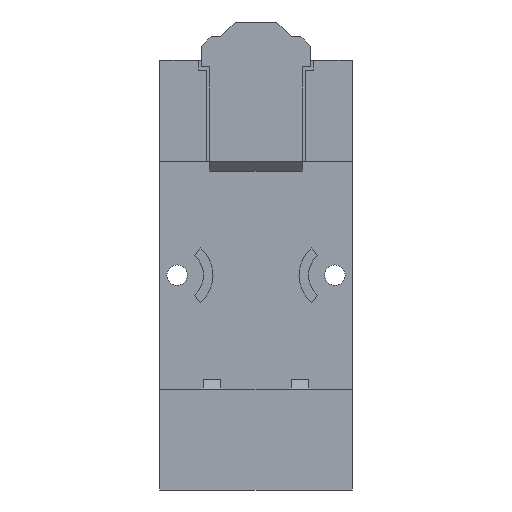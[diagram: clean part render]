
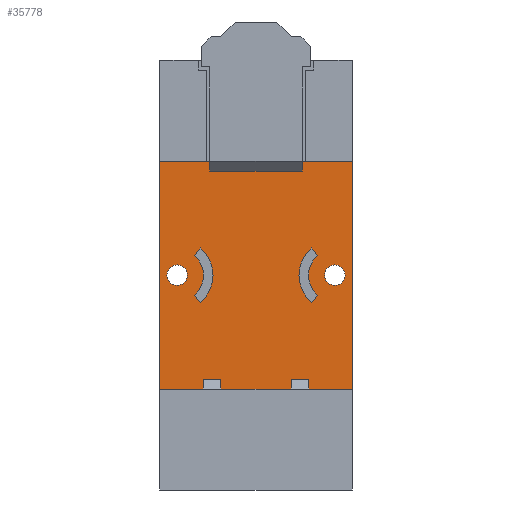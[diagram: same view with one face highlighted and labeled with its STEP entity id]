
A CAD part, front view. The second image highlights one B-rep face of the part: STEP entity #35778.
In plain terms, the highlighted planar face has unit normal (0, -1, 0).
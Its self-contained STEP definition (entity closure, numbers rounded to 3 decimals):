
#717 = CARTESIAN_POINT ( 'NONE',  ( -12.3, 4., 0. ) ) ;
#724 = DIRECTION ( 'NONE',  ( 0., 1., 0. ) ) ;
#725 = DIRECTION ( 'NONE',  ( 0., 0., -1. ) ) ;
#1115 = CARTESIAN_POINT ( 'NONE',  ( 15., 4., -17.75 ) ) ;
#1116 = CARTESIAN_POINT ( 'NONE',  ( 8.653, 4., -4.25 ) ) ;
#1117 = CARTESIAN_POINT ( 'NONE',  ( 9.63, 4., -3.112 ) ) ;
#1118 = CARTESIAN_POINT ( 'NONE',  ( 8.653, 4., 4.25 ) ) ;
#1119 = CARTESIAN_POINT ( 'NONE',  ( 9.63, 4., 3.112 ) ) ;
#1120 = CARTESIAN_POINT ( 'NONE',  ( -9.63, 4., -3.112 ) ) ;
#1121 = CARTESIAN_POINT ( 'NONE',  ( -8.653, 4., -4.25 ) ) ;
#1122 = CARTESIAN_POINT ( 'NONE',  ( -8.653, 4., 4.25 ) ) ;
#1123 = CARTESIAN_POINT ( 'NONE',  ( -9.63, 4., 3.112 ) ) ;
#1131 = CARTESIAN_POINT ( 'NONE',  ( 15., 4., 17.75 ) ) ;
#1210 = CARTESIAN_POINT ( 'NONE',  ( -15., 4., 17.75 ) ) ;
#1211 = CARTESIAN_POINT ( 'NONE',  ( -15., 4., -17.75 ) ) ;
#2302 = CARTESIAN_POINT ( 'NONE',  ( 12.3, 4., 0. ) ) ;
#2309 = DIRECTION ( 'NONE',  ( 0., -1., 0. ) ) ;
#2310 = DIRECTION ( 'NONE',  ( 0., 0., -1. ) ) ;
#4326 = AXIS2_PLACEMENT_3D ( 'NONE', #38862, #38863, #38864 ) ;
#4332 = VECTOR ( 'NONE', #38823, 1000. ) ;
#4625 = VECTOR ( 'NONE', #39432, 1000. ) ;
#4664 = AXIS2_PLACEMENT_3D ( 'NONE', #39543, #39547, #39548 ) ;
#14237 = VERTEX_POINT ( 'NONE', #46190 ) ;
#14618 = VERTEX_POINT ( 'NONE', #46341 ) ;
#15400 = VERTEX_POINT ( 'NONE', #48749 ) ;
#15567 = VERTEX_POINT ( 'NONE', #48838 ) ;
#16944 = EDGE_CURVE ( 'NONE', #14237, #14618, #20386, .T. ) ;
#17677 = VERTEX_POINT ( 'NONE', #1115 ) ;
#17678 = VERTEX_POINT ( 'NONE', #1116 ) ;
#17679 = VERTEX_POINT ( 'NONE', #1117 ) ;
#17680 = VERTEX_POINT ( 'NONE', #1118 ) ;
#17681 = VERTEX_POINT ( 'NONE', #1119 ) ;
#17682 = VERTEX_POINT ( 'NONE', #1120 ) ;
#17683 = VERTEX_POINT ( 'NONE', #1121 ) ;
#17684 = VERTEX_POINT ( 'NONE', #1122 ) ;
#17685 = VERTEX_POINT ( 'NONE', #1123 ) ;
#17693 = VERTEX_POINT ( 'NONE', #1131 ) ;
#17772 = VERTEX_POINT ( 'NONE', #1210 ) ;
#17773 = VERTEX_POINT ( 'NONE', #1211 ) ;
#18247 = EDGE_CURVE ( 'NONE', #15400, #15567, #20429, .T. ) ;
#20386 = CIRCLE ( 'NONE', #43198, 1.6 ) ;
#20429 = CIRCLE ( 'NONE', #43371, 1.6 ) ;
#20488 = CIRCLE ( 'NONE', #4326, 1.6 ) ;
#20499 = CIRCLE ( 'NONE', #4664, 1.6 ) ;
#20525 = CIRCLE ( 'NONE', #43385, 5.6 ) ;
#20526 = CIRCLE ( 'NONE', #43168, 4.1 ) ;
#20527 = CIRCLE ( 'NONE', #43396, 4.1 ) ;
#20528 = CIRCLE ( 'NONE', #43393, 5.6 ) ;
#20926 = EDGE_LOOP ( 'NONE', ( #33474, #33475 ) ) ;
#20933 = EDGE_LOOP ( 'NONE', ( #33473, #33472, #33471, #33470 ) ) ;
#20937 = EDGE_LOOP ( 'NONE', ( #33479, #33477, #33478, #33476 ) ) ;
#20939 = EDGE_LOOP ( 'NONE', ( #33483, #33481, #33482, #33480 ) ) ;
#20947 = EDGE_LOOP ( 'NONE', ( #33468, #33469 ) ) ;
#21830 = EDGE_CURVE ( 'NONE', #17773, #17772, #38821, .T. ) ;
#21844 = EDGE_CURVE ( 'NONE', #14618, #14237, #20488, .T. ) ;
#33468 = ORIENTED_EDGE ( 'NONE', *, *, #16944, .T. ) ;
#33469 = ORIENTED_EDGE ( 'NONE', *, *, #21844, .T. ) ;
#33470 = ORIENTED_EDGE ( 'NONE', *, *, #36217, .T. ) ;
#33471 = ORIENTED_EDGE ( 'NONE', *, *, #36220, .T. ) ;
#33472 = ORIENTED_EDGE ( 'NONE', *, *, #21830, .F. ) ;
#33473 = ORIENTED_EDGE ( 'NONE', *, *, #35479, .F. ) ;
#33474 = ORIENTED_EDGE ( 'NONE', *, *, #35518, .F. ) ;
#33475 = ORIENTED_EDGE ( 'NONE', *, *, #18247, .F. ) ;
#33476 = ORIENTED_EDGE ( 'NONE', *, *, #36219, .F. ) ;
#33477 = ORIENTED_EDGE ( 'NONE', *, *, #36225, .F. ) ;
#33478 = ORIENTED_EDGE ( 'NONE', *, *, #36221, .F. ) ;
#33479 = ORIENTED_EDGE ( 'NONE', *, *, #36222, .F. ) ;
#33480 = ORIENTED_EDGE ( 'NONE', *, *, #36223, .T. ) ;
#33481 = ORIENTED_EDGE ( 'NONE', *, *, #36228, .T. ) ;
#33482 = ORIENTED_EDGE ( 'NONE', *, *, #36226, .T. ) ;
#33483 = ORIENTED_EDGE ( 'NONE', *, *, #36227, .T. ) ;
#35479 = EDGE_CURVE ( 'NONE', #17772, #17693, #39430, .T. ) ;
#35518 = EDGE_CURVE ( 'NONE', #15567, #15400, #20499, .T. ) ;
#35778 = ADVANCED_FACE ( 'NONE', ( #42358, #42363, #42367, #42370, #42373 ), #40975, .F. ) ;
#36217 = EDGE_CURVE ( 'NONE', #17677, #17693, #45616, .T. ) ;
#36219 = EDGE_CURVE ( 'NONE', #17680, #17678, #20525, .T. ) ;
#36220 = EDGE_CURVE ( 'NONE', #17773, #17677, #45625, .T. ) ;
#36221 = EDGE_CURVE ( 'NONE', #17678, #17679, #45628, .T. ) ;
#36222 = EDGE_CURVE ( 'NONE', #17681, #17680, #45631, .T. ) ;
#36223 = EDGE_CURVE ( 'NONE', #17682, #17685, #20526, .T. ) ;
#36225 = EDGE_CURVE ( 'NONE', #17679, #17681, #20527, .T. ) ;
#36226 = EDGE_CURVE ( 'NONE', #17683, #17682, #45643, .T. ) ;
#36227 = EDGE_CURVE ( 'NONE', #17685, #17684, #45646, .T. ) ;
#36228 = EDGE_CURVE ( 'NONE', #17684, #17683, #20528, .T. ) ;
#38821 = LINE ( 'NONE', #38822, #4332 ) ;
#38822 = CARTESIAN_POINT ( 'NONE',  ( -15., 4., -17.75 ) ) ;
#38823 = DIRECTION ( 'NONE',  ( 0., 0., 1. ) ) ;
#38862 = CARTESIAN_POINT ( 'NONE',  ( -12.3, 4., 0. ) ) ;
#38863 = DIRECTION ( 'NONE',  ( 0., 1., 0. ) ) ;
#38864 = DIRECTION ( 'NONE',  ( 0., 0., -1. ) ) ;
#39430 = LINE ( 'NONE', #39431, #4625 ) ;
#39431 = CARTESIAN_POINT ( 'NONE',  ( -15., 4., 17.75 ) ) ;
#39432 = DIRECTION ( 'NONE',  ( 1., 0., 0. ) ) ;
#39543 = CARTESIAN_POINT ( 'NONE',  ( 12.3, 4., 0. ) ) ;
#39547 = DIRECTION ( 'NONE',  ( 0., -1., 0. ) ) ;
#39548 = DIRECTION ( 'NONE',  ( 0., 0., -1. ) ) ;
#40975 = PLANE ( 'NONE',  #42364 ) ;
#40976 = CARTESIAN_POINT ( 'NONE',  ( -15., 4., -17.75 ) ) ;
#40978 = DIRECTION ( 'NONE',  ( 0., 1., 0. ) ) ;
#40980 = DIRECTION ( 'NONE',  ( 0., 0., 1. ) ) ;
#42358 = FACE_BOUND ( 'NONE', #20939, .T. ) ;
#42363 = FACE_BOUND ( 'NONE', #20937, .T. ) ;
#42364 = AXIS2_PLACEMENT_3D ( 'NONE', #40976, #40978, #40980 ) ;
#42367 = FACE_BOUND ( 'NONE', #20926, .T. ) ;
#42370 = FACE_OUTER_BOUND ( 'NONE', #20933, .T. ) ;
#42373 = FACE_BOUND ( 'NONE', #20947, .T. ) ;
#43168 = AXIS2_PLACEMENT_3D ( 'NONE', #45624, #45634, #45635 ) ;
#43198 = AXIS2_PLACEMENT_3D ( 'NONE', #717, #724, #725 ) ;
#43371 = AXIS2_PLACEMENT_3D ( 'NONE', #2302, #2309, #2310 ) ;
#43383 = VECTOR ( 'NONE', #45618, 1000. ) ;
#43385 = AXIS2_PLACEMENT_3D ( 'NONE', #45567, #45622, #45623 ) ;
#43389 = VECTOR ( 'NONE', #45627, 1000. ) ;
#43391 = VECTOR ( 'NONE', #45630, 1000. ) ;
#43393 = AXIS2_PLACEMENT_3D ( 'NONE', #45642, #45649, #45650 ) ;
#43395 = VECTOR ( 'NONE', #45633, 1000. ) ;
#43396 = AXIS2_PLACEMENT_3D ( 'NONE', #45636, #45640, #45641 ) ;
#43401 = VECTOR ( 'NONE', #45645, 1000. ) ;
#43403 = VECTOR ( 'NONE', #45648, 1000. ) ;
#45567 = CARTESIAN_POINT ( 'NONE',  ( 12.3, 4., 0. ) ) ;
#45616 = LINE ( 'NONE', #45617, #43383 ) ;
#45617 = CARTESIAN_POINT ( 'NONE',  ( 15., 4., -17.75 ) ) ;
#45618 = DIRECTION ( 'NONE',  ( 0., 0., 1. ) ) ;
#45622 = DIRECTION ( 'NONE',  ( 0., -1., 0. ) ) ;
#45623 = DIRECTION ( 'NONE',  ( 0., 0., -1. ) ) ;
#45624 = CARTESIAN_POINT ( 'NONE',  ( -12.3, 4., 0. ) ) ;
#45625 = LINE ( 'NONE', #45626, #43389 ) ;
#45626 = CARTESIAN_POINT ( 'NONE',  ( -15., 4., -17.75 ) ) ;
#45627 = DIRECTION ( 'NONE',  ( 1., 0., 0. ) ) ;
#45628 = LINE ( 'NONE', #45629, #43391 ) ;
#45629 = CARTESIAN_POINT ( 'NONE',  ( 9.63, 4., -3.112 ) ) ;
#45630 = DIRECTION ( 'NONE',  ( 0.651, 0., 0.759 ) ) ;
#45631 = LINE ( 'NONE', #45632, #43395 ) ;
#45632 = CARTESIAN_POINT ( 'NONE',  ( 9.63, 4., 3.112 ) ) ;
#45633 = DIRECTION ( 'NONE',  ( -0.651, 0., 0.759 ) ) ;
#45634 = DIRECTION ( 'NONE',  ( 0., -1., 0. ) ) ;
#45635 = DIRECTION ( 'NONE',  ( 0., 0., -1. ) ) ;
#45636 = CARTESIAN_POINT ( 'NONE',  ( 12.3, 4., 0. ) ) ;
#45640 = DIRECTION ( 'NONE',  ( 0., 1., 0. ) ) ;
#45641 = DIRECTION ( 'NONE',  ( 0., 0., -1. ) ) ;
#45642 = CARTESIAN_POINT ( 'NONE',  ( -12.3, 4., 0. ) ) ;
#45643 = LINE ( 'NONE', #45644, #43401 ) ;
#45644 = CARTESIAN_POINT ( 'NONE',  ( -9.63, 4., -3.112 ) ) ;
#45645 = DIRECTION ( 'NONE',  ( -0.651, 0., 0.759 ) ) ;
#45646 = LINE ( 'NONE', #45647, #43403 ) ;
#45647 = CARTESIAN_POINT ( 'NONE',  ( -9.63, 4., 3.112 ) ) ;
#45648 = DIRECTION ( 'NONE',  ( 0.651, 0., 0.759 ) ) ;
#45649 = DIRECTION ( 'NONE',  ( 0., 1., 0. ) ) ;
#45650 = DIRECTION ( 'NONE',  ( 0., 0., -1. ) ) ;
#46190 = CARTESIAN_POINT ( 'NONE',  ( -12.3, 4., -1.6 ) ) ;
#46341 = CARTESIAN_POINT ( 'NONE',  ( -12.3, 4., 1.6 ) ) ;
#48749 = CARTESIAN_POINT ( 'NONE',  ( 12.3, 4., 1.6 ) ) ;
#48838 = CARTESIAN_POINT ( 'NONE',  ( 12.3, 4., -1.6 ) ) ;
